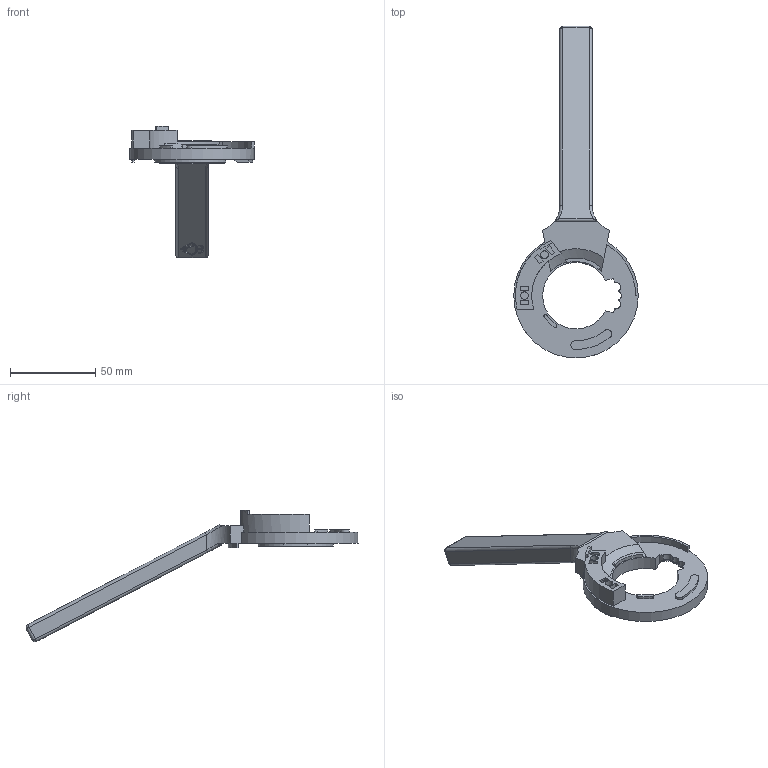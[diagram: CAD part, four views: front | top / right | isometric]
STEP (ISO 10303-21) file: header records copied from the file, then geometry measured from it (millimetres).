
FILE_DESCRIPTION(/* description */ ('STEP AP242','CAx-IF Rec.Pracs.---Representation and Presentation of Product Manufacturing Information (PMI)---4.0---2014-10-13','CAx-IF Rec.Pracs.---3D Tessellated Geometry---0.4---2014-09-14','2;1'),/* implementation_level */ '2;1');
FILE_NAME(/* name */ '67335d01239e464357885ee1',/* time_stamp */ '2024-11-12T13:49:55Z',/* author */ (''),/* organization */ (''),/* preprocessor_version */ 'ST-DEVELOPER v20',/* originating_system */ 'ONSHAPE BY PTC INC, 1.189',/* authorisation */ ' ');
FILE_SCHEMA (('AP242_MANAGED_MODEL_BASED_3D_ENGINEERING_MIM_LF { 1 0 10303 442 1 1 4 }'));
Length unit declared in the file: metre
Products named in the file (1): Part 1
Bounding box: 73 x 194.63 x 77.14 mm (x, y, z)
Volume: 51886.1 mm3; surface area: 20247.9 mm2
Topology: 1 solids, 1 shells, 494 faces, 1396 edges, 914 vertices
Faces by surface type: plane 408, cylinder 51, bspline 22, torus 7, cone 6
Full cylindrical faces by diameter (mm): 4.5 x2
Entity records: 16030 total; most frequent: CARTESIAN_POINT 3344, ORIENTED_EDGE 2776, DIRECTION 2402, EDGE_CURVE 1388, LINE 1194, VECTOR 1194, VERTEX_POINT 914, AXIS2_PLACEMENT_3D 604
